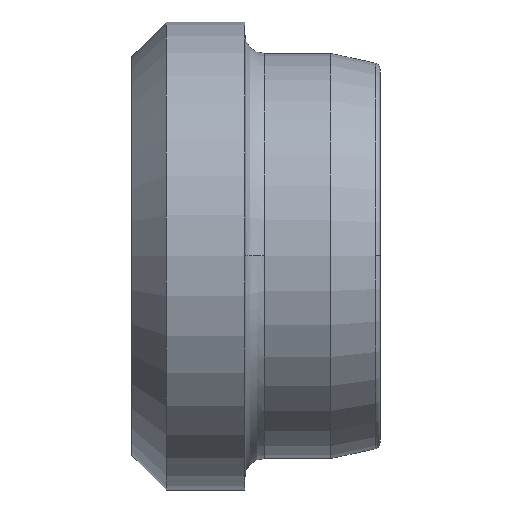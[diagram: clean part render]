
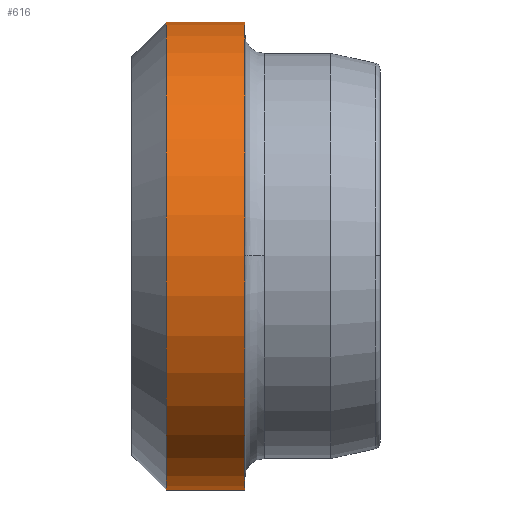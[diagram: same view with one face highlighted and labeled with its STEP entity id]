
A CAD part, top view. The second image highlights one B-rep face of the part: STEP entity #616.
In plain terms, the highlighted cylindrical face has radius 9.5 mm (diameter 19 mm), a partial arc.
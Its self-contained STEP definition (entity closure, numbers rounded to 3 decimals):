
#575=CARTESIAN_POINT('',(-3.037,-2.633,0.0));
#576=DIRECTION('',(1.0,0.0,0.0));
#577=DIRECTION('',(0.0,1.0,0.0));
#578=AXIS2_PLACEMENT_3D('',#575,#576,#577);
#579=CYLINDRICAL_SURFACE('',#578,9.5);
#580=CARTESIAN_POINT('',(-3.925,6.867,0.0));
#581=VERTEX_POINT('',#580);
#582=CARTESIAN_POINT('',(-0.75,6.867,0.0));
#583=VERTEX_POINT('',#582);
#584=CARTESIAN_POINT('',(-3.925,6.867,0.0));
#585=DIRECTION('',(1.0,0.0,0.0));
#586=VECTOR('',#585,3.175);
#587=LINE('',#584,#586);
#588=EDGE_CURVE('',#581,#583,#587,.T.);
#589=ORIENTED_EDGE('',*,*,#588,.F.);
#590=CARTESIAN_POINT('',(-3.925,-12.133,0.));
#591=VERTEX_POINT('',#590);
#592=CARTESIAN_POINT('',(-3.925,-2.633,0.0));
#593=DIRECTION('',(-1.0,0.0,0.0));
#594=DIRECTION('',(0.0,-1.0,0.0));
#595=AXIS2_PLACEMENT_3D('',#592,#593,#594);
#596=CIRCLE('',#595,9.5);
#597=EDGE_CURVE('',#591,#581,#596,.T.);
#598=ORIENTED_EDGE('',*,*,#597,.F.);
#599=CARTESIAN_POINT('',(-0.75,-12.133,0.));
#600=VERTEX_POINT('',#599);
#601=CARTESIAN_POINT('',(-0.75,-12.133,0.));
#602=DIRECTION('',(-1.0,0.0,0.0));
#603=VECTOR('',#602,3.175);
#604=LINE('',#601,#603);
#605=EDGE_CURVE('',#600,#591,#604,.T.);
#606=ORIENTED_EDGE('',*,*,#605,.F.);
#607=CARTESIAN_POINT('',(-0.75,-2.633,0.0));
#608=DIRECTION('',(1.0,0.0,0.0));
#609=DIRECTION('',(0.0,1.0,0.0));
#610=AXIS2_PLACEMENT_3D('',#607,#608,#609);
#611=CIRCLE('',#610,9.5);
#612=EDGE_CURVE('',#583,#600,#611,.T.);
#613=ORIENTED_EDGE('',*,*,#612,.F.);
#614=EDGE_LOOP('',(#589,#598,#606,#613));
#615=FACE_OUTER_BOUND('',#614,.T.);
#616=ADVANCED_FACE('',(#615),#579,.T.);
